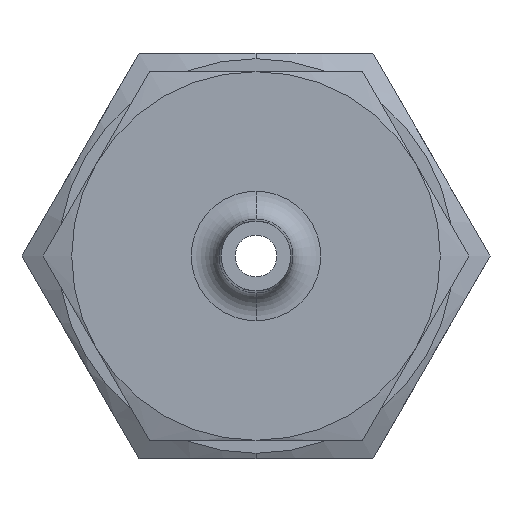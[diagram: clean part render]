
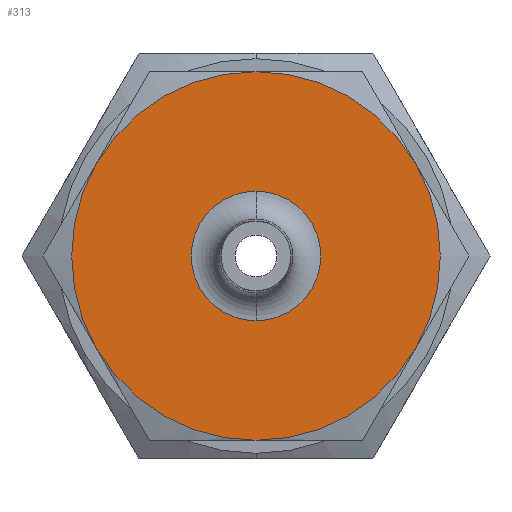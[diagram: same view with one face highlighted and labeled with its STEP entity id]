
A CAD part, left-side view. The second image highlights one B-rep face of the part: STEP entity #313.
In plain terms, the highlighted planar face has unit normal (-1, 0, 0).
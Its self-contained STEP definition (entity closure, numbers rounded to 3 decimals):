
#31 = VERTEX_POINT ( 'NONE', #651 ) ;
#131 = EDGE_CURVE ( 'NONE', #132, #31, #1012, .T. ) ;
#132 = VERTEX_POINT ( 'NONE', #1004 ) ;
#206 = VERTEX_POINT ( 'NONE', #843 ) ;
#235 = ORIENTED_EDGE ( 'NONE', *, *, #236, .F. ) ;
#236 = EDGE_CURVE ( 'NONE', #497, #480, #1153, .T. ) ;
#237 = ORIENTED_EDGE ( 'NONE', *, *, #238, .T. ) ;
#238 = EDGE_CURVE ( 'NONE', #497, #287, #1137, .T. ) ;
#239 = ORIENTED_EDGE ( 'NONE', *, *, #240, .F. ) ;
#240 = EDGE_CURVE ( 'NONE', #277, #287, #1132, .T. ) ;
#264 = VERTEX_POINT ( 'NONE', #1107 ) ;
#277 = VERTEX_POINT ( 'NONE', #1182 ) ;
#287 = VERTEX_POINT ( 'NONE', #1104 ) ;
#313 = ADVANCED_FACE ( 'NONE', ( #1209, #1207 ), #1206, .F. ) ;
#314 = EDGE_LOOP ( 'NONE', ( #315, #317 ) ) ;
#315 = ORIENTED_EDGE ( 'NONE', *, *, #316, .T. ) ;
#316 = EDGE_CURVE ( 'NONE', #31, #132, #1196, .T. ) ;
#317 = ORIENTED_EDGE ( 'NONE', *, *, #131, .T. ) ;
#411 = EDGE_CURVE ( 'NONE', #480, #264, #1423, .T. ) ;
#412 = EDGE_LOOP ( 'NONE', ( #413, #415, #511, #235, #237, #239 ) ) ;
#413 = ORIENTED_EDGE ( 'NONE', *, *, #414, .F. ) ;
#414 = EDGE_CURVE ( 'NONE', #206, #277, #1418, .T. ) ;
#415 = ORIENTED_EDGE ( 'NONE', *, *, #416, .F. ) ;
#416 = EDGE_CURVE ( 'NONE', #264, #206, #1413, .T. ) ;
#480 = VERTEX_POINT ( 'NONE', #1696 ) ;
#497 = VERTEX_POINT ( 'NONE', #1724 ) ;
#511 = ORIENTED_EDGE ( 'NONE', *, *, #411, .F. ) ;
#651 = CARTESIAN_POINT ( 'NONE',  ( 0., 0., -2.79 ) ) ;
#843 = CARTESIAN_POINT ( 'NONE',  ( 0., 0., -7.94 ) ) ;
#1004 = CARTESIAN_POINT ( 'NONE',  ( 0., 0., 2.79 ) ) ;
#1005 = DIRECTION ( 'NONE',  ( 0., 0., -1. ) ) ;
#1006 = DIRECTION ( 'NONE',  ( 1., 0., 0. ) ) ;
#1007 = CARTESIAN_POINT ( 'NONE',  ( 0., 0., 0. ) ) ;
#1008 = AXIS2_PLACEMENT_3D ( 'NONE', #1007, #1006, #1005 ) ;
#1012 = CIRCLE ( 'NONE', #1008, 2.79 ) ;
#1080 = DIRECTION ( 'NONE',  ( 0., 0., -1. ) ) ;
#1081 = DIRECTION ( 'NONE',  ( 1., 0., 0. ) ) ;
#1082 = CARTESIAN_POINT ( 'NONE',  ( 0., 0., 0. ) ) ;
#1104 = CARTESIAN_POINT ( 'NONE',  ( 0., 6.876, 3.97 ) ) ;
#1107 = CARTESIAN_POINT ( 'NONE',  ( 0., -6.876, -3.97 ) ) ;
#1131 = AXIS2_PLACEMENT_3D ( 'NONE', #1082, #1081, #1080 ) ;
#1132 = CIRCLE ( 'NONE', #1131, 7.94 ) ;
#1133 = DIRECTION ( 'NONE',  ( 0., 0., 1. ) ) ;
#1134 = DIRECTION ( 'NONE',  ( -1., 0., 0. ) ) ;
#1135 = CARTESIAN_POINT ( 'NONE',  ( 0., 0., 0. ) ) ;
#1136 = AXIS2_PLACEMENT_3D ( 'NONE', #1135, #1134, #1133 ) ;
#1137 = CIRCLE ( 'NONE', #1136, 7.94 ) ;
#1138 = DIRECTION ( 'NONE',  ( 0., 0., -1. ) ) ;
#1139 = DIRECTION ( 'NONE',  ( 1., 0., 0. ) ) ;
#1140 = AXIS2_PLACEMENT_3D ( 'NONE', #1156, #1139, #1138 ) ;
#1153 = CIRCLE ( 'NONE', #1140, 7.94 ) ;
#1156 = CARTESIAN_POINT ( 'NONE',  ( 0., 0., 0. ) ) ;
#1182 = CARTESIAN_POINT ( 'NONE',  ( 0., 6.876, -3.97 ) ) ;
#1193 = DIRECTION ( 'NONE',  ( 0., 0., -1. ) ) ;
#1194 = DIRECTION ( 'NONE',  ( 1., 0., 0. ) ) ;
#1195 = AXIS2_PLACEMENT_3D ( 'NONE', #1200, #1194, #1193 ) ;
#1196 = CIRCLE ( 'NONE', #1195, 2.79 ) ;
#1197 = DIRECTION ( 'NONE',  ( 0., 0., -1. ) ) ;
#1198 = DIRECTION ( 'NONE',  ( 1., 0., 0. ) ) ;
#1199 = AXIS2_PLACEMENT_3D ( 'NONE', #1205, #1198, #1197 ) ;
#1200 = CARTESIAN_POINT ( 'NONE',  ( 0., 0., 0. ) ) ;
#1205 = CARTESIAN_POINT ( 'NONE',  ( 0., 9.168, 0. ) ) ;
#1206 = PLANE ( 'NONE',  #1199 ) ;
#1207 = FACE_OUTER_BOUND ( 'NONE', #412, .T. ) ;
#1209 = FACE_BOUND ( 'NONE', #314, .T. ) ;
#1409 = DIRECTION ( 'NONE',  ( 0., 0., -1. ) ) ;
#1410 = DIRECTION ( 'NONE',  ( 1., 0., 0. ) ) ;
#1411 = CARTESIAN_POINT ( 'NONE',  ( 0., 0., 0. ) ) ;
#1412 = AXIS2_PLACEMENT_3D ( 'NONE', #1411, #1410, #1409 ) ;
#1413 = CIRCLE ( 'NONE', #1412, 7.94 ) ;
#1414 = DIRECTION ( 'NONE',  ( 0., 0., -1. ) ) ;
#1415 = DIRECTION ( 'NONE',  ( 1., 0., 0. ) ) ;
#1416 = CARTESIAN_POINT ( 'NONE',  ( 0., 0., 0. ) ) ;
#1417 = AXIS2_PLACEMENT_3D ( 'NONE', #1416, #1415, #1414 ) ;
#1418 = CIRCLE ( 'NONE', #1417, 7.94 ) ;
#1419 = DIRECTION ( 'NONE',  ( 0., 0., -1. ) ) ;
#1420 = DIRECTION ( 'NONE',  ( 1., 0., 0. ) ) ;
#1421 = CARTESIAN_POINT ( 'NONE',  ( 0., 0., 0. ) ) ;
#1422 = AXIS2_PLACEMENT_3D ( 'NONE', #1421, #1420, #1419 ) ;
#1423 = CIRCLE ( 'NONE', #1422, 7.94 ) ;
#1696 = CARTESIAN_POINT ( 'NONE',  ( 0., -6.876, 3.97 ) ) ;
#1724 = CARTESIAN_POINT ( 'NONE',  ( 0., 0., 7.94 ) ) ;
